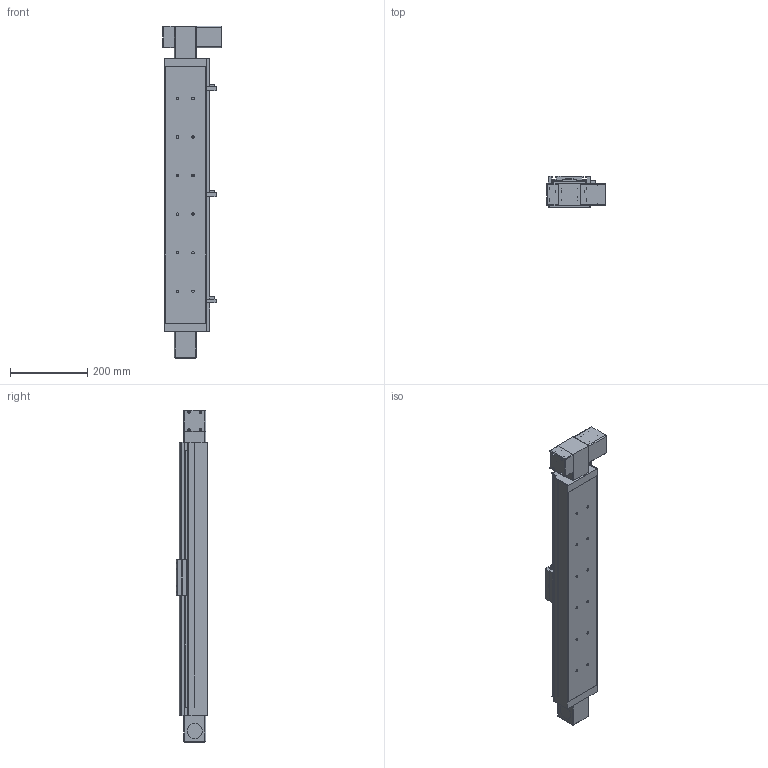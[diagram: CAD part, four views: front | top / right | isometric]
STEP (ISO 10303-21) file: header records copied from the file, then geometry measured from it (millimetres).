
FILE_DESCRIPTION((''),'2;1');
FILE_NAME('E:\uia actuator\UIA actuator 3d- 2015\Belt drive actuator\UIA110BR12(15)DC\UIA110BR12(15)DC-STEP FILE\UIA110BR12(15) stp file 13May16\UIA110BR12(15)DC-550-M23-P13-C10-S.stp','2016-05-13T15:45:30',('h029'),(''),'Autodesk Inventor 11','Autodesk Inventor 11','');
FILE_SCHEMA(('AUTOMOTIVE_DESIGN { 1 0 10303 214 1 1 1 1 }'));
Length unit declared in the file: millimetre
Products named in the file (11): UIA110BR12(15)DC-550; UIA110BR12(15)DC-550-body; UIA110BR12(15)DC-550-Sensor rail; UIA110B-Carriage; UIA110B- Sensor Flag; UIA110B-Cover; SOH-32C; SOH-32C-3; SOH-32C-1; SOH-32C-2; Motor mount
Assembly tree (10 placements, depth 3):
  UIA110BR12(15)DC-550
    UIA110BR12(15)DC-550-body
    UIA110BR12(15)DC-550-Sensor rail
    UIA110B-Carriage
    UIA110B- Sensor Flag
    UIA110B-Cover
    SOH-32C
      SOH-32C-3
      SOH-32C-1
      SOH-32C-2
    Motor mount
Bounding box: 152 x 81 x 861 mm (x, y, z)
Volume: 2844098 mm3; surface area: 767496.7 mm2
Topology: 9 solids, 13 shells, 724 faces, 2026 edges, 1304 vertices
Faces by surface type: plane 455, cylinder 179, cone 42, bspline 40, sphere 8
Full cylindrical faces by diameter (mm): 2.459 x4, 3 x2, 3.242 x8, 3.5 x4, 4 x10, 4.5 x4, 4.917 x8, 5 x2, 6.35 x1, 6.5 x12, 7.5 x4, 10 x3, 11 x12, 12 x1, 20 x2, 32 x3, 37 x1, 38.1 x1, 39 x2, 43.5 x1, 46 x2
Entity records: 23818 total; most frequent: CARTESIAN_POINT 5765, DIRECTION 3687, ORIENTED_EDGE 3534, EDGE_CURVE 1767, AXIS2_PLACEMENT_3D 1252, VERTEX_POINT 1216, VECTOR 1183, LINE 1183
